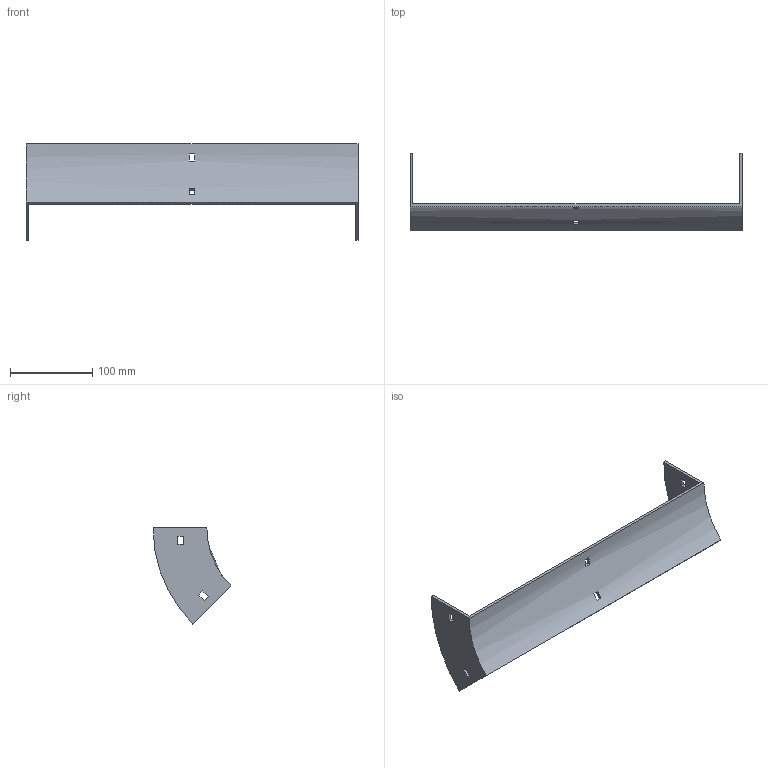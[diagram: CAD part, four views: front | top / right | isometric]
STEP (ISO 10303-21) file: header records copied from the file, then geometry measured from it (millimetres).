
FILE_DESCRIPTION (( 'STEP AP214' ), '1' );
FILE_NAME ('34B1H400.step', '2025-02-21T09:29:02', ( '' ), ( '' ), 'SwSTEP 2.0', 'SolidWorks 2023', '' );
FILE_SCHEMA (( 'AUTOMOTIVE_DESIGN' ));
Length unit declared in the file: millimetre
Products named in the file (1): 34B1H400
Bounding box: 404 x 94.79 x 117.03 mm (x, y, z)
Volume: 157449.7 mm3; surface area: 95263.6 mm2
Topology: 1 solids, 1 shells, 34 faces, 96 edges, 64 vertices
Faces by surface type: plane 30, cylinder 4
Entity records: 1143 total; most frequent: CARTESIAN_POINT 195, ORIENTED_EDGE 192, DIRECTION 182, EDGE_CURVE 96, VECTOR 80, LINE 80, VERTEX_POINT 64, AXIS2_PLACEMENT_3D 51
